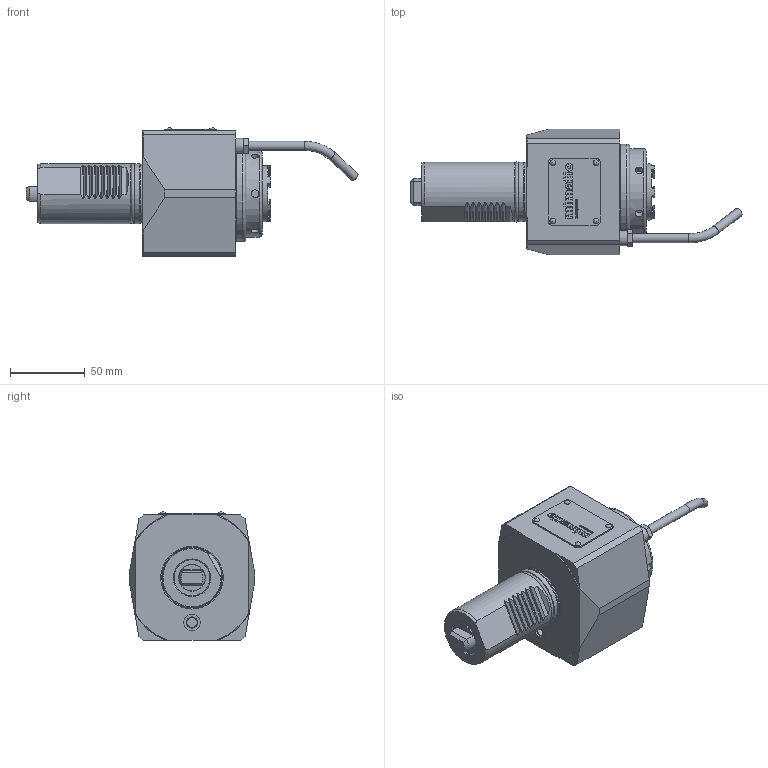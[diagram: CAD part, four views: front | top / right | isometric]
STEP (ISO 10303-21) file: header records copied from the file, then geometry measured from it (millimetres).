
FILE_DESCRIPTION(/* description */ (''),/* implementation_level */ '2;1');
FILE_NAME(/* name */ '124256',/* time_stamp */ '2020-01-13T11:41:08+01:00',/* author */ (''),/* organization */ (''),/* preprocessor_version */ 'ST-DEVELOPER v16.5',/* originating_system */ 'HiCAD 2017 2201.0 Build 268',/* authorisation */ '');
FILE_SCHEMA (('AUTOMOTIVE_DESIGN { 1 0 10303 214 1 1 1 1 }'));
Length unit declared in the file: millimetre
Products named in the file (2): Root; Teil
Assembly tree (1 placements, depth 2):
  Root
    Teil
Bounding box: 222.17 x 84 x 86.3 mm (x, y, z)
Volume: 510927.7 mm3; surface area: 60283.4 mm2
Topology: 1 solids, 5 shells, 569 faces, 1477 edges, 978 vertices
Faces by surface type: plane 333, cylinder 154, bspline 38, torus 24, cone 16, sphere 4
Full cylindrical faces by diameter (mm): 2 x4, 2.2 x4, 4 x2, 5.1 x6, 6 x3, 6.8 x1, 7.65 x1, 10 x1, 11.01 x1, 11.1 x1, 18 x1, 23.5 x1, 24 x2, 27 x3, 29.4 x1, 36.5 x2, 37.5 x1, 38 x1, 39.6 x1, 40 x4, 40.5 x1, 50 x1, 58 x1, 59.6 x1, 64 x1
Entity records: 37630 total; most frequent: CARTESIAN_POINT 9016, PRESENTATION_STYLE_ASSIGNMENT 3032, OVER_RIDING_STYLED_ITEM 3031, COLOUR_RGB 2746, DRAUGHTING_PRE_DEFINED_CURVE_FONT 2738, CURVE_STYLE 2738, ORIENTED_EDGE 2738, DIRECTION 2538
